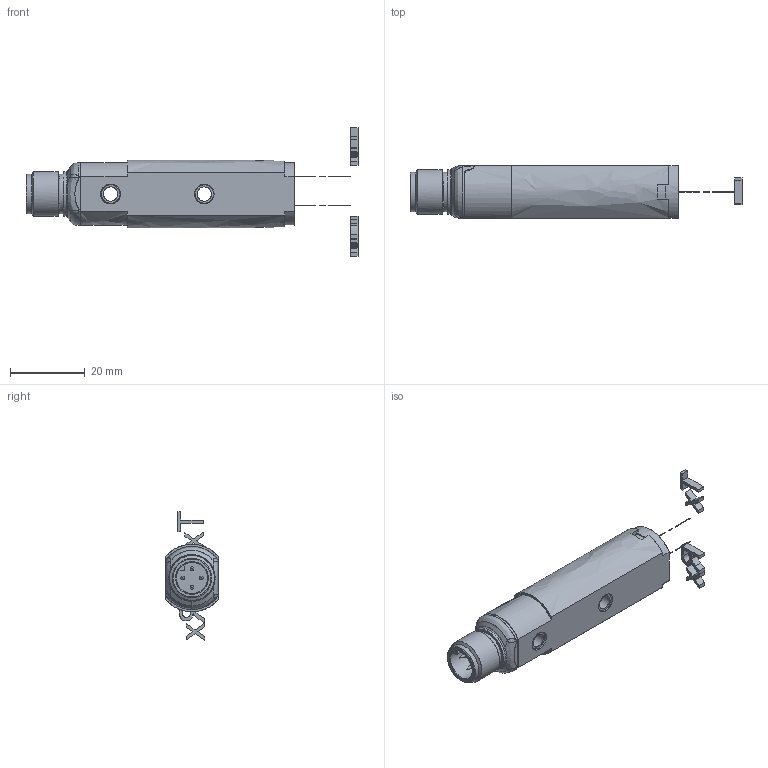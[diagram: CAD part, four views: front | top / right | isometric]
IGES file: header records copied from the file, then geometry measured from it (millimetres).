
Global section: file name: D:\TMP\DSD-0035.igs; preprocessor: I-DEAS 3D IGES Translator 11; date: 20060607.084304; units: millimetre
Bounding box: 88.55 x 14 x 34.32 mm (x, y, z)
Volume: 91.1 mm3; surface area: 5284.8 mm2
Topology: 8 solids, 8 shells, 231 faces, 1138 edges, 1028 vertices
Faces by surface type: bspline 231
